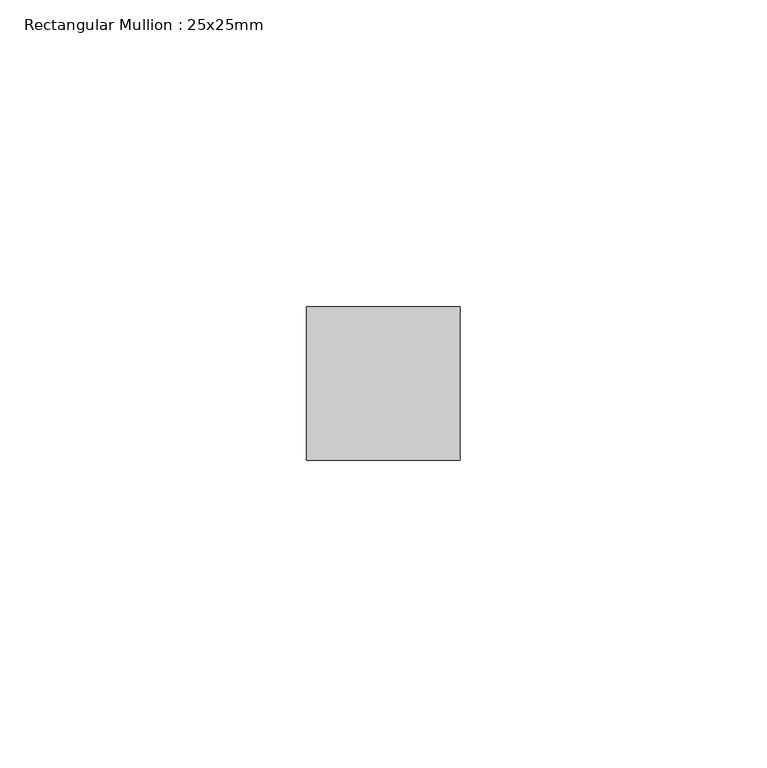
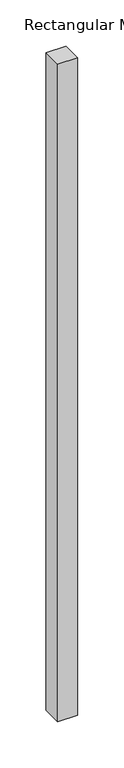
"""IFC4 building model written with IfcOpenShell, lengths in millimetres: member geometry, Rectangular Mullion : 25x25mm."""

from ifc_helpers import new_model, si_unit, frame, origin, place, context, project, spatial, polyline, outline, extrude, source, transform, mapped, element, save


def rectangular_mullion_25x25mm_7ca17579(model_context):
    return source(origin(), model_context, "Body", "SweptSolid", [
        extrude(outline(polyline([(0.0, 24.5), (0.0, -0.5), (-25.0, -0.5), (-25.0, 24.5), (0.0, 24.5)])), frame((0.0, 0.0, -865.6250002), z_axis=(0.0, 0.0, 1.0), x_axis=(1.0, 0.0, 0.0)), (0.0, 0.0, 1.0), 865.6250002),
    ])


if __name__ == "__main__":
    model = new_model("IFC4")
    model_context = context("Model", 3, world=origin())
    ifc_project = project(units=[si_unit("LENGTHUNIT", "METRE", prefix="MILLI")], contexts=[model_context])
    site = spatial("IfcSite", under=ifc_project)
    building = spatial("IfcBuilding", under=site)
    placement = place(None, origin())
    rectangular_mullion_25x25mm_shape = rectangular_mullion_25x25mm_7ca17579(model_context)
    element("IfcMember", 1, ObjectType="Rectangular Mullion : 25x25mm", at=placement, inside=building, context=model_context, shape_type="MappedRepresentation", body=[
        mapped(rectangular_mullion_25x25mm_shape, transform((0.0, 0.0, 0.0), x_axis=(1.0, 0.0, 0.0), y_axis=(0.0, 1.0, 0.0), z_axis=(0.0, 0.0, 1.0))),
    ])
    save(model, "model.ifc")
